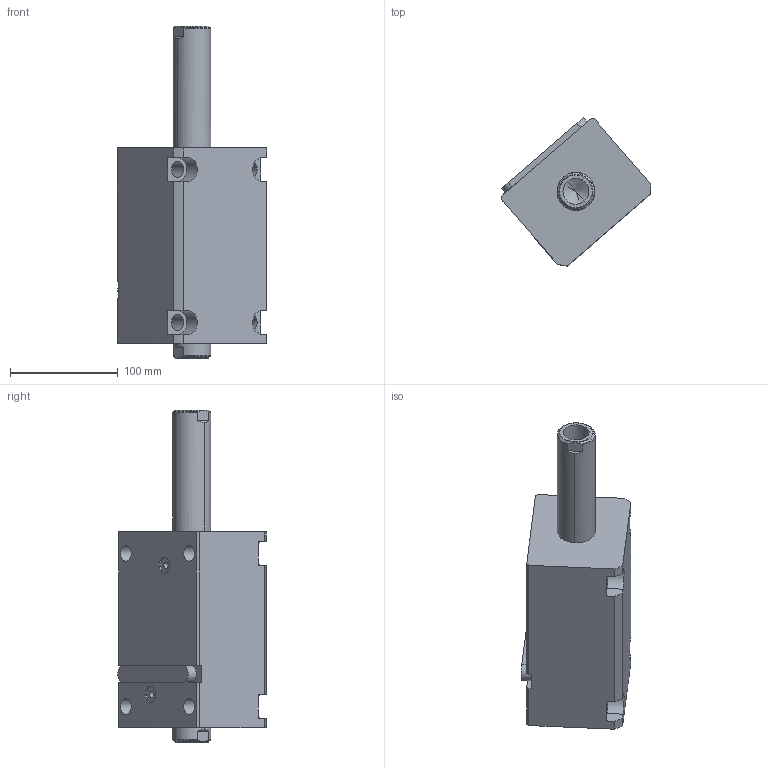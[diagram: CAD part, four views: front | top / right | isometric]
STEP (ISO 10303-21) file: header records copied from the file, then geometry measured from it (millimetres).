
FILE_DESCRIPTION (( 'STEP AP214' ), '1' );
FILE_NAME ('chtb-lwm63x100n_asm.STEP', '2018-05-22T02:22:47', ( 'Windows' ), ( 'Microsoft' ), 'SwSTEP 2.0', 'SolidWorks 2015', '' );
FILE_SCHEMA (( 'AUTOMOTIVE_DESIGN' ));
Length unit declared in the file: millimetre
Products named in the file (5): CHTB-SW63X100NHSG; CHTB-LWM63X100NBT; CHTB-LA63PJ; CHTB-63QG; chtb-lwm63x100n_asm
Assembly tree (4 placements, depth 2):
  chtb-lwm63x100n_asm
    CHTB-63QG
    CHTB-LA63PJ
    CHTB-LWM63X100NBT
    CHTB-SW63X100NHSG
Bounding box: 138.86 x 137.64 x 308 mm (x, y, z)
Volume: 1652800.9 mm3; surface area: 211339.6 mm2
Topology: 4 solids, 4 shells, 186 faces, 543 edges, 367 vertices
Faces by surface type: cylinder 103, plane 47, bspline 12, cone 12, torus 12
Entity records: 18665 total; most frequent: CARTESIAN_POINT 13839, ORIENTED_EDGE 1070, DIRECTION 834, EDGE_CURVE 535, VERTEX_POINT 367, AXIS2_PLACEMENT_3D 318, EDGE_LOOP 212, LINE 198
